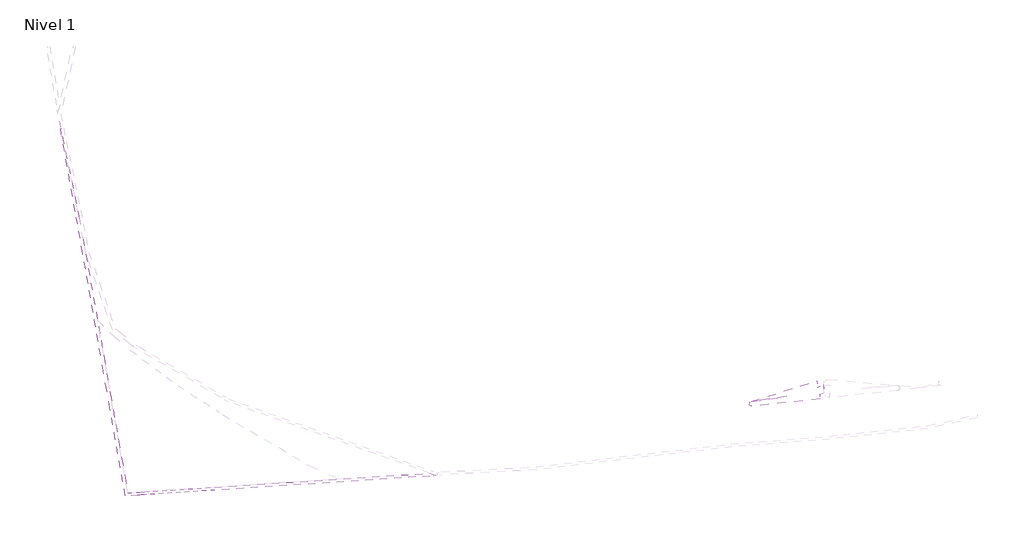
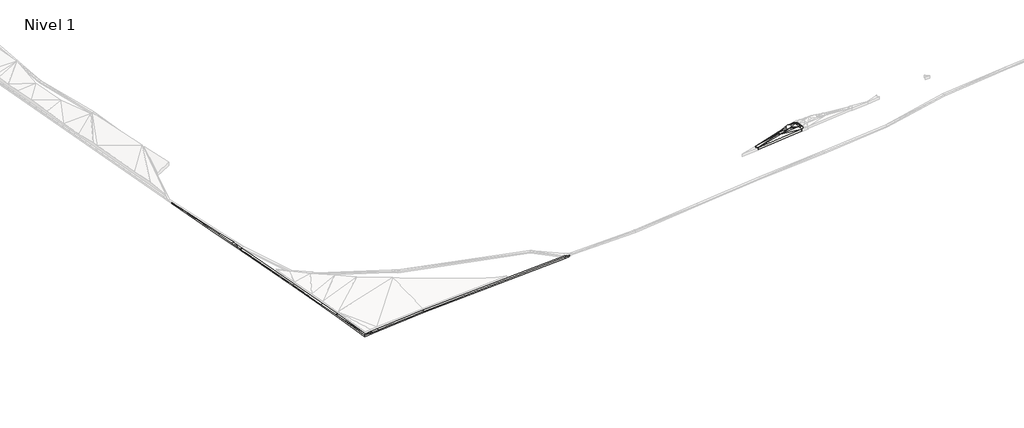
# One storey, part 6 of 45: 2 slabs.
"""IFC4 building model written with IfcOpenShell, lengths in millimetres."""

from ifc_helpers import new_model, si_unit, frame, origin, place, context, project, spatial, polyline, circle_curve, element, save
from ifc_brep_helpers import plane_surface, cylinder_surface, revolved_surface, spline_surface, advanced_brep

model = new_model("IFC4")

# Units and contexts
model_context = context("Model", 3, world=origin())
ifc_project = project(units=[si_unit("LENGTHUNIT", "METRE", prefix="MILLI")], contexts=[model_context])

# Site, building, storey
site = spatial("IfcSite", under=ifc_project)
building = spatial("IfcBuilding", under=site)
storey = spatial("IfcBuildingStorey", under=building, Name="Nivel 1", Elevation=0.0)

# Slabs
placement = place(None, origin())
element("IfcSlab", 1, ObjectType="Lippia", at=placement, inside=storey, context=model_context, shape_type="AdvancedBrep", body=[
    advanced_brep(
    [(-177722.1086904, -467923.5734188, 4450.0), (-177722.1086904, -467923.5734188, 4750.0), (-177622.8352784, -468834.7757949, 4750.0), (-177622.8352784, -468834.7757949, 4450.0), (-178396.2631934, -467535.3170165, 4450.0), (-178396.2631934, -467535.3170165, 4750.0), (-185090.2028082, -469648.5291184, 4450.0), (-185090.2028082, -469648.5291184, 4750.0), (-178064.2035222, -469382.5602448, 4450.0), (-178064.2035222, -469382.5602448, 4750.0), (-185018.9652328, -470136.8879373, 4750.0), (-185018.9652328, -470136.8879373, 4450.0), (-179567.1170685, -468295.4203072, 5250.0), (-180027.0636661, -468647.9081031, 5250.0), (-180076.5301023, -468977.2317322, 5250.0), (-179753.3640868, -469071.2043547, 5250.0), (-179508.9972049, -468946.014297, 5250.0), (-179227.1168889, -468813.3062163, 5250.0), (-179196.1918415, -468373.0151038, 5250.0), (-178346.3150804, -468220.1625138, 5050.0), (-178124.6486462, -468674.1619447, 5050.0), (-179567.1170685, -468295.4203072, 4950.0), (-179196.1918415, -468373.0151038, 4950.0), (-179227.1168889, -468813.3062163, 4950.0), (-179508.9972049, -468946.014297, 4950.0), (-179753.3640868, -469071.2043547, 4950.0), (-180076.5301023, -468977.2317322, 4950.0), (-180027.0636661, -468647.9081031, 4950.0), (-178346.3150804, -468220.1625138, 4750.0), (-178124.6486462, -468674.1619447, 4750.0), (-181286.8880434, -468836.4925753, 5050.0), (-181174.3514811, -469319.4268045, 5050.0), (-181286.8880434, -468836.4925753, 4750.0), (-181174.3514811, -469319.4268045, 4750.0), (-178324.2806995, -469032.5992203, 5050.0), (-178120.23426, -468885.7096067, 5050.0), (-178324.2806995, -469032.5992203, 4750.0), (-178120.23426, -468885.7096067, 4750.0), (-178610.8993091, -467974.9098154, 5050.0), (-178610.8993091, -467974.9098154, 4750.0), (-178971.6518612, -467971.5488205, 5050.0), (-178971.6518612, -467971.5488205, 4750.0), (-181442.8752585, -469127.4142245, 5050.0), (-181442.8752585, -469127.4142245, 4750.0)],
    [
        (0, 1),
        (1, 2),
        (2, 3),
        (3, 0),
        (4, 5),
        (5, 1, circle_curve(frame((-178215.9703632, -468001.6800681, 4750.0), z_axis=(0.0, 0.0, -1.0), x_axis=(-0.9018616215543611, 0.432025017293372, 0.0)), 500.0000005)),
        (0, 4, circle_curve(frame((-178215.9703632, -468001.6800681, 4450.0), z_axis=(0.0, 0.0, 1.0), x_axis=(-0.9018616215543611, 0.432025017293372, 0.0)), 500.0000005)),
        (6, 7),
        (7, 5),
        (4, 6),
        (8, 9),
        (9, 10),
        (10, 11),
        (11, 8),
        (2, 9, circle_curve(frame((-178120.23426, -468885.7096067, 4750.0), z_axis=(0.0, 0.0, -1.0), x_axis=(-0.9018616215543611, 0.432025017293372, 0.0)), 500.0000001)),
        (8, 3, circle_curve(frame((-178120.23426, -468885.7096067, 4450.0), z_axis=(0.0, 0.0, 1.0), x_axis=(-0.9018616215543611, 0.432025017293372, 0.0)), 500.0000001)),
        (12, 13),
        (13, 14),
        (14, 15),
        (15, 16),
        (16, 17),
        (17, 18),
        (18, 12),
        (5, 19),
        (19, 1),
        (1, 20),
        (20, 2),
        (21, 22),
        (22, 23),
        (23, 24),
        (24, 25),
        (25, 26),
        (26, 27),
        (27, 21),
        (0, 28),
        (28, 4),
        (3, 29),
        (29, 0),
        (13, 30),
        (30, 14),
        (14, 31),
        (31, 15),
        (26, 32),
        (32, 27),
        (25, 33),
        (33, 26),
        (30, 31),
        (12, 30),
        (33, 32),
        (32, 21),
        (34, 9),
        (9, 35),
        (35, 34),
        (16, 34),
        (34, 17),
        (36, 37),
        (37, 8),
        (8, 36),
        (23, 36),
        (36, 24),
        (2, 35),
        (35, 20),
        (20, 19),
        (19, 34),
        (37, 3),
        (36, 28),
        (28, 29),
        (29, 37),
        (19, 17),
        (19, 18),
        (5, 38),
        (38, 19),
        (23, 28),
        (22, 28),
        (28, 39),
        (39, 4),
        (40, 18),
        (18, 38),
        (38, 40),
        (40, 5),
        (5, 30),
        (30, 40),
        (41, 39),
        (39, 22),
        (22, 41),
        (41, 32),
        (32, 4),
        (4, 41),
        (34, 15),
        (31, 34),
        (31, 9),
        (36, 33),
        (25, 36),
        (8, 33),
        (40, 12),
        (21, 41),
        (42, 31),
        (30, 42),
        (43, 32),
        (33, 43),
        (10, 7, circle_curve(frame((-185014.9075732, -469886.9208697, 4750.0), z_axis=(0.0, 0.0, -1.0), x_axis=(-0.9018616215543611, 0.432025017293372, 0.0)), 249.999999)),
        (6, 11, circle_curve(frame((-185014.9075732, -469886.9208697, 4450.0), z_axis=(0.0, 0.0, 1.0), x_axis=(-0.9018616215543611, 0.432025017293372, 0.0)), 249.999999)),
        (31, 10),
        (42, 10),
        (42, 7),
        (30, 7),
        (11, 33),
        (11, 43),
        (6, 43),
        (6, 32),
    ],
    [
        plane_surface(frame((-177722.1086904, -467923.5734188, 4450.0), z_axis=(0.9941175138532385, 0.10830682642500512, 0.0), x_axis=(0.0, 0.0, 1.0))),
        cylinder_surface(frame((-178215.9703632, -468001.6800681, 4750.0), z_axis=(0.0, 0.0, -1.0), x_axis=(-0.9018616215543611, 0.432025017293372, 0.0)), 500.0000005),
        plane_surface(frame((-185090.2028082, -469648.5291184, 4450.0), z_axis=(-0.3010454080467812, 0.9536098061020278, 0.0), x_axis=(0.0, 0.0, 1.0))),
        plane_surface(frame((-178064.2035222, -469382.5602448, 4450.0), z_axis=(0.10782964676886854, -0.9941693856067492, 0.0), x_axis=(0.0, 0.0, 1.0))),
        cylinder_surface(frame((-178120.23426, -468885.7096067, 4750.0), z_axis=(0.0, 0.0, -1.0), x_axis=(-0.9018616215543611, 0.432025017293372, 0.0)), 500.0000001),
        plane_surface(frame((-179622.3401227, -468732.014302, 5250.0), z_axis=(0.0, 0.0, 1.0), x_axis=(-0.7937212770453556, -0.6082816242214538, 0.0))),
        spline_surface(2, 1, [[(-177722.1086904, -467923.5734188, 4750.0), (-178346.3150804, -468220.1625138, 5050.0)], [(-177759.4260019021, -467687.6192452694, 4750.0), (-178346.3150804, -468220.1625138, 5050.0)], [(-177966.4365714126, -467568.3985345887, 4750.0), (-178346.3150804, -468220.1625138, 5050.0)], [(-178173.44714091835, -467449.1778239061, 4750.0), (-178346.3150804, -468220.1625138, 5050.0)], [(-178396.2631934, -467535.3170165, 4750.0), (-178346.3150804, -468220.1625138, 5050.0)]], [3, 2, 3], [2, 2], [0.0, 1.0, 2.0], [0.0, 1.0], weights=[[1.0, 1.0], [0.9023052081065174, 0.9023052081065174], [1.0, 1.0], [0.9023052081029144, 0.9023052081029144], [1.0, 1.0]]),
        plane_surface(frame((-177823.1975383, -468477.5037195, 4850.0), z_axis=(0.5257261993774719, 0.05727666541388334, 0.8487233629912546), x_axis=(-0.10830682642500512, 0.9941175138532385, 0.0))),
        plane_surface(frame((-179622.3401227, -468732.014302, 4950.0), z_axis=(0.0, 0.0, -1.0), x_axis=(-0.7937212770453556, -0.6082816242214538, 0.0))),
        spline_surface(1, 2, [[(-177722.1086904, -467923.5734188, 4450.0), (-177759.4260019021, -467687.6192452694, 4450.0), (-177966.4365714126, -467568.3985345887, 4450.0), (-178173.44714091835, -467449.1778239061, 4450.0), (-178396.2631934, -467535.3170165, 4450.0)], [(-178346.3150804, -468220.1625138, 4750.0), (-178346.3150804, -468220.1625138, 4750.0), (-178346.3150804, -468220.1625138, 4750.0), (-178346.3150804, -468220.1625138, 4750.0), (-178346.3150804, -468220.1625138, 4750.0)]], [2, 2], [3, 2, 3], [0.0, 1.0], [0.0, 1.0, 2.0], weights=[[1.0, 0.9023052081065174, 1.0, 0.9023052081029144, 1.0], [1.0, 0.9023052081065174, 1.0, 0.9023052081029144, 1.0]]),
        plane_surface(frame((-177823.1975383, -468477.5037195, 4550.0), z_axis=(-0.5257261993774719, -0.05727666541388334, -0.8487233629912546), x_axis=(-0.10830682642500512, 0.9941175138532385, 0.0))),
        plane_surface(frame((-180463.4939373, -468820.5441369, 5183.3333333), z_axis=(-0.1602571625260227, 0.024071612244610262, 0.9867817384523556), x_axis=(0.14853983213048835, 0.9889064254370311, 0.0))),
        plane_surface(frame((-180334.7485567, -469122.6209638, 5183.3333333), z_axis=(-0.08386722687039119, -0.28841418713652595, 0.9538257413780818), x_axis=(-0.9602266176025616, 0.27922185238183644, 0.0))),
        plane_surface(frame((-180463.4939373, -468820.5441369, 4883.3333333), z_axis=(0.1602571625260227, -0.024071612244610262, -0.9867817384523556), x_axis=(0.14853983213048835, 0.9889064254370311, 0.0))),
        plane_surface(frame((-180334.7485567, -469122.6209638, 4883.3333333), z_axis=(0.08386722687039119, 0.28841418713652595, -0.9538257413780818), x_axis=(-0.9602266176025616, 0.27922185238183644, 0.0))),
        plane_surface(frame((-180845.9232089, -469044.383704, 5116.6666667), z_axis=(-0.16731720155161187, -0.03898937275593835, 0.9851318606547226), x_axis=(0.9405758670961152, 0.29318105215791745, 0.17135317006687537))),
        plane_surface(frame((-180293.6895927, -468593.2736619, 5183.3333333), z_axis=(-0.18766383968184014, 0.24487470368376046, 0.9512195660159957), x_axis=(0.9770127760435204, 0.14625009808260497, 0.15510301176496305))),
        plane_surface(frame((-180845.9232089, -469044.383704, 4816.6666667), z_axis=(0.16731720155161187, 0.03898937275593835, -0.9851318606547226), x_axis=(0.9405758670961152, 0.29318105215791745, 0.17135317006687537))),
        plane_surface(frame((-180293.6895927, -468593.2736619, 4883.3333333), z_axis=(0.18766383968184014, -0.24487470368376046, -0.9512195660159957), x_axis=(0.9770127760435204, 0.14625009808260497, 0.15510301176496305))),
        plane_surface(frame((-178169.5728273, -469100.2896906, 4950.0), z_axis=(0.33119336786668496, -0.460065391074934, 0.8238026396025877), x_axis=(0.491400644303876, -0.6612309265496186, -0.5668324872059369))),
        plane_surface(frame((-179020.1315978, -468930.6399112, 5183.3333333), z_axis=(0.1382235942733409, -0.29359561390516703, 0.9458836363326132), x_axis=(-0.9047463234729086, -0.425950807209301, 0.0))),
        plane_surface(frame((-178169.5728273, -469100.2896906, 4650.0), z_axis=(-0.33119336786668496, 0.460065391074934, -0.8238026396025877), x_axis=(0.491400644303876, -0.6612309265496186, -0.5668324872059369))),
        plane_surface(frame((-179020.1315978, -468930.6399112, 4883.3333333), z_axis=(-0.1382235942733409, 0.29359561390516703, -0.9458836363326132), x_axis=(-0.9047463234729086, -0.425950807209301, 0.0))),
        revolved_surface(polyline([(-178120.23426, -468885.7096067, 5050.0), (-178064.2035222, -469382.5602448, 4750.0)]), (-178120.23426, -468885.7096067, 5050.0), (0.0, 0.0, -1.0)),
        plane_surface(frame((-178228.8696715, -468703.1583214, 5050.0), z_axis=(0.0, 0.0, 1.0000000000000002), x_axis=(-0.020862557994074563, 0.9997823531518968, 0.0))),
        plane_surface(frame((-177955.9060615, -468798.2157821, 4950.0), z_axis=(0.5156318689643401, 0.010759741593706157, 0.8567426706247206), x_axis=(0.8530322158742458, 0.08735076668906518, -0.5144957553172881))),
        revolved_surface(polyline([(-177622.8352784, -468834.7757949, 4450.0), (-178120.23426, -468885.7096067, 4750.0)]), (-178120.23426, -468885.7096067, 4750.0), (0.0, 0.0, -1.0)),
        plane_surface(frame((-178228.8696715, -468703.1583214, 4750.0), z_axis=(0.0, 0.0, -1.0000000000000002), x_axis=(-0.020862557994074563, 0.9997823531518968, 0.0))),
        plane_surface(frame((-177955.9060615, -468798.2157821, 4650.0), z_axis=(-0.5156318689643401, -0.010759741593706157, -0.8567426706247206), x_axis=(0.8530322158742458, 0.08735076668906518, -0.5144957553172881))),
        plane_surface(frame((-178632.5708896, -468688.6893168, 5116.6666667), z_axis=(0.2176436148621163, 0.005902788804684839, 0.9760104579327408), x_axis=(-0.8151271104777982, -0.5489174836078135, 0.18508751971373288))),
        plane_surface(frame((-178923.2079369, -468468.8279446, 5183.3333333), z_axis=(0.23181422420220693, -0.016282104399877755, 0.9726238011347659), x_axis=(-0.9588268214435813, -0.17244754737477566, 0.2256390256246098))),
        plane_surface(frame((-178451.1591943, -467910.1297819, 4950.0), z_axis=(0.3666995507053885, 0.39560387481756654, 0.8420386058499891), x_axis=(-0.06665627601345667, 0.9139334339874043, -0.40035311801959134))),
        plane_surface(frame((-178064.3574723, -468272.6326258, 4950.0), z_axis=(0.35784289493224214, 0.17471774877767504, 0.9172906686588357), x_axis=(0.44577725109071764, 0.8312101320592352, -0.3322233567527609))),
        plane_surface(frame((-178632.5708896, -468688.6893168, 4816.6666667), z_axis=(-0.2176436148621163, -0.005902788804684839, -0.9760104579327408), x_axis=(-0.8151271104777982, -0.5489174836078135, 0.18508751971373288))),
        plane_surface(frame((-178923.2079369, -468468.8279446, 4883.3333333), z_axis=(-0.23181422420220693, 0.016282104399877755, -0.9726238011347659), x_axis=(-0.9588268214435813, -0.17244754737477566, 0.2256390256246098))),
        plane_surface(frame((-178451.1591943, -467910.1297819, 4650.0), z_axis=(-0.3666995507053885, -0.39560387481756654, -0.8420386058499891), x_axis=(-0.06665627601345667, 0.9139334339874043, -0.40035311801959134))),
        plane_surface(frame((-178064.3574723, -468272.6326258, 4650.0), z_axis=(-0.35784289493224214, -0.17471774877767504, -0.9172906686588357), x_axis=(0.44577725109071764, 0.8312101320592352, -0.3322233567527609))),
        plane_surface(frame((-178926.2476706, -468106.4912466, 5116.6666667), z_axis=(0.004137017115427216, 0.44404692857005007, 0.8959939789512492), x_axis=(-0.4476556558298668, -0.800385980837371, 0.39873135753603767))),
        plane_surface(frame((-179551.6010327, -468114.4528041, 4950.0), z_axis=(-0.2879216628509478, 0.7706936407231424, 0.568447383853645), x_axis=(0.7358836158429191, 0.5579112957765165, -0.3836799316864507))),
        plane_surface(frame((-178926.2476706, -468106.4912466, 4816.6666667), z_axis=(-0.004137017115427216, -0.44404692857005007, -0.8959939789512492), x_axis=(-0.4476556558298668, -0.800385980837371, 0.39873135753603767))),
        plane_surface(frame((-179551.6010327, -468114.4528041, 4650.0), z_axis=(0.2879216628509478, -0.7706936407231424, -0.568447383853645), x_axis=(0.7358836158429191, 0.5579112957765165, -0.3836799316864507))),
        plane_surface(frame((-178717.802077, -468189.3624777, 5116.6666667), z_axis=(0.18929279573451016, 0.20421340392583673, 0.960450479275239), x_axis=(-0.7957052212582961, -0.5412241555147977, 0.2719000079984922))),
        plane_surface(frame((-178717.802077, -468189.3624777, 4816.6666667), z_axis=(-0.18929279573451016, -0.20421340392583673, -0.960450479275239), x_axis=(-0.7957052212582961, -0.5412241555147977, 0.2719000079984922))),
        plane_surface(frame((-179750.6654225, -469141.0767932, 5116.6666667), z_axis=(0.08871453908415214, -0.8815146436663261, 0.46374741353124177), x_axis=(-0.9899943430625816, -0.02674362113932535, 0.13854955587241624))),
        plane_surface(frame((-179195.5473304, -469016.6059573, 5183.3333333), z_axis=(0.14054619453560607, -0.27434155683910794, 0.9513061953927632), x_axis=(-0.9834974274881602, 0.07187884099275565, 0.1660308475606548))),
        plane_surface(frame((-179187.6119009, -469244.8620899, 4950.0), z_axis=(0.06262947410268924, -0.6223196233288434, 0.7802536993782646), x_axis=(0.9951769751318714, -0.020201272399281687, -0.0959932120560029))),
        plane_surface(frame((-179750.6654225, -469141.0767932, 4816.6666667), z_axis=(-0.08871453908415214, 0.8815146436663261, -0.46374741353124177), x_axis=(-0.9899943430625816, -0.02674362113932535, 0.13854955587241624))),
        plane_surface(frame((-179195.5473304, -469016.6059573, 4883.3333333), z_axis=(-0.14054619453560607, 0.27434155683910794, -0.9513061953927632), x_axis=(-0.9834974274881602, 0.07187884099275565, 0.1660308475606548))),
        plane_surface(frame((-179187.6119009, -469244.8620899, 4650.0), z_axis=(-0.06262947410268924, 0.6223196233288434, -0.7802536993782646), x_axis=(0.9951769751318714, -0.020201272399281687, -0.0959932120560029))),
        plane_surface(frame((-179244.9869237, -468213.3280772, 5183.3333333), z_axis=(0.08490034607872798, 0.4058478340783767, 0.9099887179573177), x_axis=(0.9788121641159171, -0.2047602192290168, 0.0))),
        plane_surface(frame((-179941.8856577, -468367.8205677, 5116.6666667), z_axis=(-0.31611396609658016, 0.8461573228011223, 0.4290568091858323), x_axis=(0.9480869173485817, 0.29828596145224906, 0.11025734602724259))),
        plane_surface(frame((-179244.9869237, -468213.3280772, 4883.3333333), z_axis=(-0.08490034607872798, -0.4058478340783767, -0.9099887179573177), x_axis=(0.9788121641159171, -0.2047602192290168, 0.0))),
        plane_surface(frame((-179941.8856577, -468367.8205677, 4816.6666667), z_axis=(0.31611396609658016, -0.8461573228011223, -0.4290568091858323), x_axis=(0.9480869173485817, 0.29828596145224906, 0.11025734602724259))),
        plane_surface(frame((-181301.3715943, -469094.4445348, 5050.0), z_axis=(0.0, 0.0, 1.0000000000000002), x_axis=(0.813432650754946, -0.5816591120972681, 0.0))),
        plane_surface(frame((-178659.6047879, -467827.2585508, 4950.0), z_axis=(0.005235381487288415, 0.5619399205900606, 0.8271614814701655), x_axis=(0.3740244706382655, 0.7660335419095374, -0.5227794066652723))),
        plane_surface(frame((-181301.3715943, -469094.4445348, 4750.0), z_axis=(0.0, 0.0, -1.0000000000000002), x_axis=(0.813432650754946, -0.5816591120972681, 0.0))),
        plane_surface(frame((-178659.6047879, -467827.2585508, 4650.0), z_axis=(-0.005235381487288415, -0.5619399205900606, -0.8271614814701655), x_axis=(0.3740244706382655, 0.7660335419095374, -0.5227794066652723))),
        cylinder_surface(frame((-185014.9075732, -469886.9208697, 4750.0), z_axis=(0.0, 0.0, -1.0), x_axis=(-0.9018616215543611, 0.432025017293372, 0.0)), 249.999999),
        plane_surface(frame((-181419.173412, -469612.9583289, 4850.0), z_axis=(0.06489162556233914, -0.598288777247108, 0.7986486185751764), x_axis=(0.9941693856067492, 0.10782964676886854, 0.0))),
        plane_surface(frame((-182545.3973241, -469527.9096555, 4950.0), z_axis=(-0.05982764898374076, -0.08366715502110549, 0.9946961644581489), x_axis=(0.9752973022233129, 0.2073726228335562, 0.07610366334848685))),
        spline_surface(2, 1, [[(-185090.2028082, -469648.5291184, 4750.0), (-181442.8752585, -469127.4142245, 5050.0)], [(-185292.98512611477, -469712.5772333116, 4750.0), (-181442.8752585, -469127.4142245, 5050.0)], [(-185262.28947325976, -469923.00680912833, 4750.0), (-181442.8752585, -469127.4142245, 5050.0)], [(-185231.59382043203, -470133.43638494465, 4750.0), (-181442.8752585, -469127.4142245, 5050.0)], [(-185018.9652328, -470136.8879373, 4750.0), (-181442.8752585, -469127.4142245, 5050.0)]], [3, 2, 3], [2, 2], [0.0, 1.0, 2.0], [0.0, 1.0], weights=[[1.0, 1.0], [0.7617038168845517, 0.7617038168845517], [1.0, 1.0], [0.761703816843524, 0.761703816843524], [1.0, 1.0]]),
        plane_surface(frame((-182606.65537, -469204.1453061, 4950.0), z_axis=(-0.0886243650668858, 0.04751886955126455, 0.9949309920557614), x_axis=(0.47254228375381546, 0.8813079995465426, 0.0))),
        plane_surface(frame((-181591.118015, -468673.4462368, 4850.0), z_axis=(-0.18941223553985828, 0.5999937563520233, 0.777258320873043), x_axis=(0.9078186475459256, 0.408642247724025, -0.09421685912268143))),
        plane_surface(frame((-181419.173412, -469612.9583289, 4550.0), z_axis=(-0.06489162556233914, 0.598288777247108, -0.7986486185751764), x_axis=(0.9941693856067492, 0.10782964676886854, 0.0))),
        plane_surface(frame((-182545.3973241, -469527.9096555, 4650.0), z_axis=(0.05982764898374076, 0.08366715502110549, -0.9946961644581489), x_axis=(0.9752973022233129, 0.2073726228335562, 0.07610366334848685))),
        spline_surface(1, 2, [[(-185090.2028082, -469648.5291184, 4450.0), (-185292.98512611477, -469712.5772333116, 4450.0), (-185262.28947325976, -469923.00680912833, 4450.0), (-185231.59382043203, -470133.43638494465, 4450.0), (-185018.9652328, -470136.8879373, 4450.0)], [(-181442.8752585, -469127.4142245, 4750.0), (-181442.8752585, -469127.4142245, 4750.0), (-181442.8752585, -469127.4142245, 4750.0), (-181442.8752585, -469127.4142245, 4750.0), (-181442.8752585, -469127.4142245, 4750.0)]], [2, 2], [3, 2, 3], [0.0, 1.0], [0.0, 1.0, 2.0], weights=[[1.0, 0.7617038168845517, 1.0, 0.761703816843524, 1.0], [1.0, 0.7617038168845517, 1.0, 0.761703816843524, 1.0]]),
        plane_surface(frame((-182606.65537, -469204.1453061, 4650.0), z_axis=(0.0886243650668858, -0.04751886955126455, -0.9949309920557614), x_axis=(0.47254228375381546, 0.8813079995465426, 0.0))),
        plane_surface(frame((-181591.118015, -468673.4462368, 4550.0), z_axis=(0.18941223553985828, -0.5999937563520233, -0.777258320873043), x_axis=(0.9078186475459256, 0.408642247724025, -0.09421685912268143))),
    ],
    [
        (0, [[1, 2, 3, 4]]),
        (1, [[5, 6, -1, 7]]),
        (2, [[8, 9, -5, 10]]),
        (3, [[11, 12, 13, 14]]),
        (4, [[-3, 15, -11, 16]]),
        (5, [[17, 18, 19, 20, 21, 22, 23]]),
        (6, [[-6, 24, 25]]),
        (7, [[-2, 26, 27]]),
        (8, [[28, 29, 30, 31, 32, 33, 34]]),
        (9, [[35, 36, -7]]),
        (10, [[37, 38, -4]]),
        (11, [[-18, 39, 40]]),
        (12, [[-19, 41, 42]]),
        (13, [[43, 44, -33]]),
        (14, [[45, 46, -32]]),
        (15, [[-41, -40, 47]]),
        (16, [[-39, -17, 48]]),
        (17, [[49, -43, -46]]),
        (18, [[50, -34, -44]]),
        (19, [[51, 52, 53]]),
        (20, [[-21, 54, 55]]),
        (21, [[56, 57, 58]]),
        (22, [[59, 60, -30]]),
        (23, [[-52, -15, 61]]),
        (24, [[62, 63, 64, -53]]),
        (25, [[-61, -27, -62]]),
        (26, [[65, -16, -57]]),
        (27, [[-56, 66, 67, 68]]),
        (28, [[-68, -37, -65]]),
        (29, [[69, -55, -64]]),
        (30, [[70, -22, -69]]),
        (31, [[-24, 71, 72]]),
        (32, [[-26, -25, -63]]),
        (33, [[-66, -59, 73]]),
        (34, [[-73, -29, 74]]),
        (35, [[75, 76, -36]]),
        (36, [[-67, -35, -38]]),
        (37, [[77, 78, 79]]),
        (38, [[80, 81, 82]]),
        (39, [[83, 84, 85]]),
        (40, [[86, 87, 88]]),
        (41, [[-78, -70, -72]]),
        (42, [[-75, -74, -84]]),
        (43, [[89, -42, 90]]),
        (44, [[-54, -20, -89]]),
        (45, [[91, -51, -90]]),
        (46, [[92, -45, 93]]),
        (47, [[-93, -31, -60]]),
        (48, [[-92, -58, 94]]),
        (49, [[-23, -77, 95]]),
        (50, [[-48, -95, -82]]),
        (51, [[96, -85, -28]]),
        (52, [[-86, -96, -50]]),
        (53, [[97, -47, 98]]),
        (54, [[-71, -80, -79]]),
        (55, [[99, -49, 100]]),
        (56, [[-83, -88, -76]]),
        (57, [[-13, 101, -8, 102]]),
        (58, [[-12, -91, 103]]),
        (59, [[-103, -97, 104]]),
        (60, [[-104, 105, -101]]),
        (61, [[-98, 106, -105]]),
        (62, [[-81, -9, -106]]),
        (63, [[107, -94, -14]]),
        (64, [[108, -100, -107]]),
        (65, [[-102, 109, -108]]),
        (66, [[-109, 110, -99]]),
        (67, [[-110, -10, -87]]),
    ],
),
])
element("IfcSlab", 2, ObjectType="Tierra de Chacra (20cm)", at=placement, inside=storey, context=model_context, shape_type="AdvancedBrep", body=[
    advanced_brep(
    [(-217863.9693678, -476965.9069289, 3100.0), (-217863.9693678, -476965.9069289, 3300.0), (-217184.4884977, -477206.5193271, 3300.0), (-217184.4884977, -477206.5193271, 3100.0), (-217844.3928163, -477265.2675118, 3300.0), (-217844.3928163, -477265.2675118, 3100.0), (-239766.5468932, -478698.8569132, 3300.0), (-246777.2300342, -479157.3173826, 3108.7), (-247688.1507227, -479216.8866311, 3075.7), (-248900.1846534, -479296.1470446, 3012.6), (-248900.1846534, -479296.1470446, 2812.6), (-247688.1507227, -479216.8866311, 2875.7), (-246777.2300342, -479157.3173826, 2908.7), (-239766.5468932, -478698.8569132, 3100.0), (-249907.2026032, -473541.8496768, 3200.0), (-250429.90801, -470555.0088293, 3200.0), (-251407.3708126, -464969.5953489, 3200.0), (-253212.2994629, -454655.8803021, 3200.0), (-253228.2299155, -454564.850583, 3200.0), (-253228.2299155, -454564.850583, 3000.0), (-253212.2994629, -454655.8803021, 3000.0), (-251407.3708126, -464969.5953489, 3000.0), (-250429.90801, -470555.0088293, 3000.0), (-249907.2026032, -473541.8496768, 3000.0), (-253514.8928089, -452961.9067467, 3263.2), (-254000.0370154, -450249.1073819, 3200.0042802), (-255641.7505911, -441069.0749571, 3200.0), (-255641.7505911, -441069.0749571, 3000.0), (-254000.0369981, -450249.1074785, 3000.0), (-253514.8927571, -452961.9070365, 3063.1871593), (-253739.7364396, -450202.5565579, 3200.0), (-253739.7364396, -450202.5565579, 3000.0), (-253213.619149, -452908.0282908, 3263.1871503), (-253213.619149, -452908.0282908, 3063.1871503), (-252916.7904615, -454604.1654098, 3200.0), (-252916.7904615, -454604.1654098, 3000.0), (-251111.8618112, -464917.8804566, 3200.0), (-250134.3990086, -470503.293937, 3200.0), (-249612.5591669, -473485.1887766, 3200.0), (-248651.0890774, -478979.2167688, 3012.6247395), (-248651.0890774, -478979.2167688, 2812.6247395), (-249612.5591669, -473485.1887766, 3000.0), (-250134.3990086, -470503.293937, 3000.0), (-251111.8618112, -464917.8804566, 3000.0), (-247786.9217593, -478922.7049359, 3075.6789462), (-246922.7544411, -478866.193103, 3108.7331529), (-239798.9297221, -478400.333791, 3300.0), (-239798.9297221, -478400.333791, 3100.0), (-246922.7544411, -478866.193103, 2908.7331529), (-247786.9217593, -478922.7049359, 2875.6789462)],
    [
        (0, 1),
        (1, 2),
        (2, 3),
        (3, 0),
        (2, 4),
        (4, 5),
        (5, 3),
        (4, 6),
        (6, 7),
        (7, 8),
        (8, 9),
        (9, 10),
        (10, 11),
        (11, 12),
        (12, 13),
        (13, 5),
        (9, 14),
        (14, 15),
        (15, 16),
        (16, 17),
        (17, 18),
        (18, 19),
        (19, 20),
        (20, 21),
        (21, 22),
        (22, 23),
        (23, 10),
        (18, 24),
        (24, 25),
        (25, 26),
        (26, 27),
        (27, 28),
        (28, 29),
        (29, 19),
        (26, 30),
        (30, 31),
        (31, 27),
        (30, 32),
        (32, 33),
        (33, 31),
        (32, 34),
        (34, 35),
        (35, 33),
        (34, 36),
        (36, 37),
        (37, 38),
        (38, 39),
        (39, 40),
        (40, 41),
        (41, 42),
        (42, 43),
        (43, 35),
        (39, 44),
        (44, 45),
        (45, 46),
        (46, 1),
        (0, 47),
        (47, 48),
        (48, 49),
        (49, 40),
        (46, 6),
        (13, 47),
        (39, 9),
        (8, 39),
        (40, 11),
        (10, 40),
        (32, 18),
        (18, 34),
        (35, 19),
        (19, 33),
        (44, 8),
        (7, 45),
        (48, 12),
        (11, 49),
        (38, 14),
        (14, 39),
        (40, 23),
        (23, 41),
        (17, 34),
        (35, 20),
        (36, 16),
        (15, 37),
        (42, 22),
        (21, 43),
        (25, 30),
        (31, 28),
        (24, 32),
        (33, 29),
    ],
    [
        plane_surface(frame((-217863.9693678, -476965.9069289, 3750.0), z_axis=(0.33380143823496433, 0.9426434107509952, 0.0), x_axis=(0.0, 0.0, 1.0))),
        plane_surface(frame((-217184.4884977, -477206.5193271, 3750.0), z_axis=(0.08867460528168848, -0.9960606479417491, 0.0), x_axis=(0.0, 0.0, 1.0))),
        plane_surface(frame((-217844.3928163, -477265.2675118, 3750.0), z_axis=(0.06525516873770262, -0.9978686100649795, 0.0), x_axis=(0.0, 0.0, 1.0))),
        plane_surface(frame((-248900.1846534, -479296.1470446, 3750.0), z_axis=(-0.985030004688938, -0.17238297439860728, 0.0), x_axis=(0.0, 0.0, 1.0))),
        plane_surface(frame((-253228.2299155, -454564.850583, 3750.0), z_axis=(-0.9843825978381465, -0.1760423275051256, 0.0), x_axis=(0.0, 0.0, 1.0))),
        plane_surface(frame((-255641.7505911, -441069.0749571, 3750.0), z_axis=(0.9789974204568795, 0.2038726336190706, 0.0), x_axis=(0.0, 0.0, 1.0))),
        plane_surface(frame((-253739.7364396, -450202.5565579, 3750.0), z_axis=(0.9816117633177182, 0.19088830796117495, 0.0), x_axis=(0.0, 0.0, 1.0))),
        plane_surface(frame((-253213.6191302, -452908.0283871, 3750.0), z_axis=(0.9850300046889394, 0.1723829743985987, 0.0), x_axis=(0.0, 0.0, 1.0))),
        plane_surface(frame((-252916.7904615, -454604.1654098, 3750.0), z_axis=(0.9850300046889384, 0.17238297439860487, 0.0), x_axis=(0.0, 0.0, 1.0))),
        plane_surface(frame((-248651.0890774, -478979.2167688, 3750.0), z_axis=(-0.0652551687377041, 0.9978686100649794, 0.0), x_axis=(0.0, 0.0, 1.0))),
        plane_surface(frame((-226491.6654594, -477707.3768944, 3300.0), z_axis=(0.0, 0.0, 1.0000000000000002), x_axis=(0.9960606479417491, 0.08867460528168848, 0.0))),
        plane_surface(frame((-226491.6654594, -477707.3768944, 3100.0), z_axis=(0.0, 0.0, -1.0000000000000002), x_axis=(0.9960606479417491, 0.08867460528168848, 0.0))),
        plane_surface(frame((-248413.1414845, -479164.0834815, 3033.6415798), z_axis=(-0.05474367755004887, 0.04294865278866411, 0.9975763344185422), x_axis=(-0.6179426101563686, -0.7862232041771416, -6.137233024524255e-05))),
        plane_surface(frame((-248413.1414845, -479164.0834815, 2833.6415798), z_axis=(0.05474367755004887, -0.04294865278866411, -0.9975763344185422), x_axis=(-0.6179426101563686, -0.7862232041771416, -6.137233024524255e-05))),
        plane_surface(frame((-253119.5465024, -454025.68146, 3221.0609567), z_axis=(-0.004805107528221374, -0.038064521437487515, 0.9992637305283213), x_axis=(-0.17226704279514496, 0.9843675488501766, 0.03666871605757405))),
        plane_surface(frame((-253119.5465024, -454025.68146, 3021.0609567), z_axis=(0.004805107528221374, 0.038064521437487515, -0.9992637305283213), x_axis=(-0.17226704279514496, 0.9843675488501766, 0.03666871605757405))),
        spline_surface(1, 1, [[(-247688.1507227, -479216.8866311, 3075.7), (-247786.9217593, -478922.7049359, 3075.6789462)], [(-246777.2300342, -479157.3173826, 3108.7), (-246922.7544411, -478866.193103, 3108.7331529)]], [2, 2], [2, 2], [0.0, 1.0], [0.0, 1.0]),
        plane_surface(frame((-248042.0538531, -479039.6027786, 3054.6678952), z_axis=(-0.07120068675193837, -0.023834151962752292, 0.9971772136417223), x_axis=(0.9689079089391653, -0.2391432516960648, 0.06346628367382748))),
        spline_surface(1, 1, [[(-247688.1507227, -479216.8866311, 2875.7), (-246777.2300342, -479157.3173826, 2908.7)], [(-247786.9217593, -478922.7049359, 2875.6789462), (-246922.7544411, -478866.193103, 2908.7331529)]], [2, 2], [2, 2], [0.0, 1.0], [0.0, 1.0]),
        plane_surface(frame((-248042.0538531, -479039.6027786, 2854.6678952), z_axis=(0.07120068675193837, 0.023834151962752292, -0.9971772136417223), x_axis=(0.9689079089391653, -0.2391432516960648, 0.06346628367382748))),
        spline_surface(1, 1, [[(-246777.2300342, -479157.3173826, 3108.7), (-246922.7544411, -478866.193103, 3108.7331529)], [(-239766.5468932, -478698.8569132, 3300.0), (-239798.9297221, -478400.333791, 3300.0)]], [2, 2], [2, 2], [0.0, 1.0], [0.0, 1.0]),
        spline_surface(1, 1, [[(-246777.2300342, -479157.3173826, 2908.7), (-239766.5468932, -478698.8569132, 3100.0)], [(-246922.7544411, -478866.193103, 2908.7331529), (-239798.9297221, -478400.333791, 3100.0)]], [2, 2], [2, 2], [0.0, 1.0], [0.0, 1.0]),
        plane_surface(frame((-249390.2836158, -475335.4184074, 3137.5415798), z_axis=(0.006341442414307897, -0.032976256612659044, 0.9994360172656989), x_axis=(-0.17228578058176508, 0.984474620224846, 0.03357576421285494))),
        plane_surface(frame((-249390.2836158, -475335.4184074, 2937.5415798), z_axis=(-0.006341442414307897, 0.032976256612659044, -0.9994360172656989), x_axis=(-0.17228578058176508, 0.984474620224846, 0.03357576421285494))),
        plane_surface(frame((-253119.1066133, -454608.298765, 3200.0), z_axis=(0.0, 0.0, 1.0), x_axis=(-0.9921262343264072, 0.12524190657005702, 0.0))),
        plane_surface(frame((-253119.1066133, -454608.298765, 3000.0), z_axis=(0.0, 0.0, -1.0), x_axis=(-0.9921262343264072, 0.12524190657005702, 0.0))),
        plane_surface(frame((-250770.8849106, -467736.444643, 3200.0), z_axis=(0.0, 0.0, 1.0), x_axis=(-0.17238297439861, 0.9850300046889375, 0.0))),
        plane_surface(frame((-250021.0171972, -472021.3353049, 3200.0), z_axis=(0.0, 0.0, 1.0), x_axis=(-0.1723829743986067, 0.9850300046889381, 0.0))),
        plane_surface(frame((-249152.8254447, -477272.4044967, 3075.0749132), z_axis=(0.03377730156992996, -0.02662570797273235, 0.9990746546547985), x_axis=(-0.22496011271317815, 0.9737899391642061, 0.03355744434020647))),
        plane_surface(frame((-250770.8849106, -467736.444643, 3000.0), z_axis=(0.0, 0.0, -1.0), x_axis=(-0.17238297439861, 0.9850300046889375, 0.0))),
        plane_surface(frame((-250021.0171972, -472021.3353049, 3000.0), z_axis=(0.0, 0.0, -1.0), x_axis=(-0.1723829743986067, 0.9850300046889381, 0.0))),
        plane_surface(frame((-249152.8254447, -477272.4044967, 2875.0749132), z_axis=(-0.03377730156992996, 0.02662570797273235, -0.9990746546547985), x_axis=(-0.22496011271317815, 0.9737899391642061, 0.03355744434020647))),
        plane_surface(frame((-252162.0806371, -459786.8803793, 3200.0), z_axis=(0.0, 0.0, 1.0), x_axis=(-0.9850300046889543, -0.1723829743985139, 0.0))),
        plane_surface(frame((-252162.0806371, -459786.8803793, 3000.0), z_axis=(0.0, 0.0, -1.0), x_axis=(-0.9850300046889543, -0.1723829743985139, 0.0))),
        plane_surface(frame((-254460.5080096, -447173.5796645, 3200.0), z_axis=(0.0, 0.0, 1.0), x_axis=(-0.2038726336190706, 0.9789974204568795, 0.0))),
        plane_surface(frame((-254460.5080096, -447173.5796645, 3000.0), z_axis=(0.0, 0.0, -1.0), x_axis=(-0.2038726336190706, 0.9789974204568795, 0.0))),
        plane_surface(frame((-253617.0713442, -451580.3997925, 3231.5957175), z_axis=(-0.004035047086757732, 0.02256292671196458, 0.9997372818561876), x_axis=(-0.19083816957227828, 0.9813539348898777, -0.022918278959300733))),
        plane_surface(frame((-253617.0713442, -451580.3997925, 3031.5957175), z_axis=(0.004035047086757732, -0.02256292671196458, -0.9997372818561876), x_axis=(-0.19083816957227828, 0.9813539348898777, -0.022918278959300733))),
        plane_surface(frame((-253318.9139515, -453478.2619056, 3242.1276233), z_axis=(0.00688241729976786, -0.03816697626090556, 0.9992476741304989), x_axis=(-0.9843825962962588, -0.17604232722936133, 5.597059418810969e-05))),
        plane_surface(frame((-253318.9139515, -453478.2619056, 3042.1276233), z_axis=(-0.00688241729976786, 0.03816697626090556, -0.9992476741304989), x_axis=(-0.9843825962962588, -0.17604232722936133, 5.597059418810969e-05))),
    ],
    [
        (0, [[1, 2, 3, 4]]),
        (1, [[-3, 5, 6, 7]]),
        (2, [[-6, 8, 9, 10, 11, 12, 13, 14, 15, 16]]),
        (3, [[-12, 17, 18, 19, 20, 21, 22, 23, 24, 25, 26, 27]]),
        (4, [[-22, 28, 29, 30, 31, 32, 33, 34]]),
        (5, [[-31, 35, 36, 37]]),
        (6, [[-36, 38, 39, 40]]),
        (7, [[-39, 41, 42, 43]]),
        (8, [[-42, 44, 45, 46, 47, 48, 49, 50, 51, 52]]),
        (9, [[-48, 53, 54, 55, 56, -1, 57, 58, 59, 60]]),
        (10, [[-5, -2, -56, 61, -8]]),
        (11, [[-16, 62, -57, -4, -7]]),
        (12, [[63, -11, 64]]),
        (13, [[65, -13, 66]]),
        (14, [[-41, 67, 68]]),
        (15, [[69, 70, -43]]),
        (16, [[71, -10, 72, -54]]),
        (17, [[-64, -71, -53]]),
        (18, [[-59, 73, -14, 74]]),
        (19, [[-60, -74, -65]]),
        (20, [[-72, -9, -61, -55]]),
        (21, [[-58, -62, -15, -73]]),
        (22, [[-47, 75, 76]]),
        (23, [[77, 78, -49]]),
        (24, [[-68, -21, 79]]),
        (25, [[80, -23, -69]]),
        (26, [[-45, 81, -19, 82]]),
        (27, [[-46, -82, -18, -75]]),
        (28, [[-76, -17, -63]]),
        (29, [[83, -25, 84, -51]]),
        (30, [[-78, -26, -83, -50]]),
        (31, [[-66, -27, -77]]),
        (32, [[-79, -20, -81, -44]]),
        (33, [[-52, -84, -24, -80]]),
        (34, [[-35, -30, 85]]),
        (35, [[86, -32, -37]]),
        (36, [[-38, -85, -29, 87]]),
        (37, [[88, -33, -86, -40]]),
        (38, [[-87, -28, -67]]),
        (39, [[-70, -34, -88]]),
    ],
),
])

save(model, "model.ifc")
